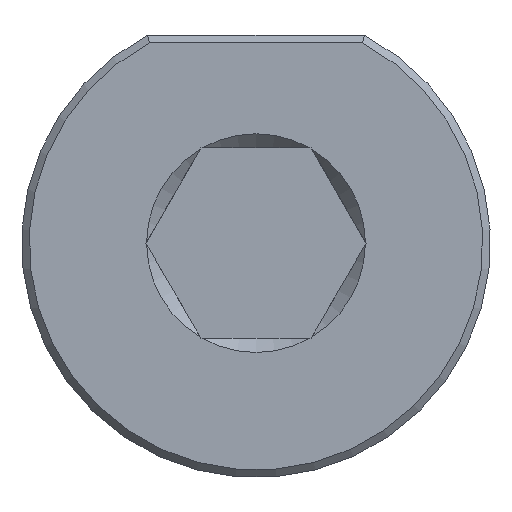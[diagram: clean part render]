
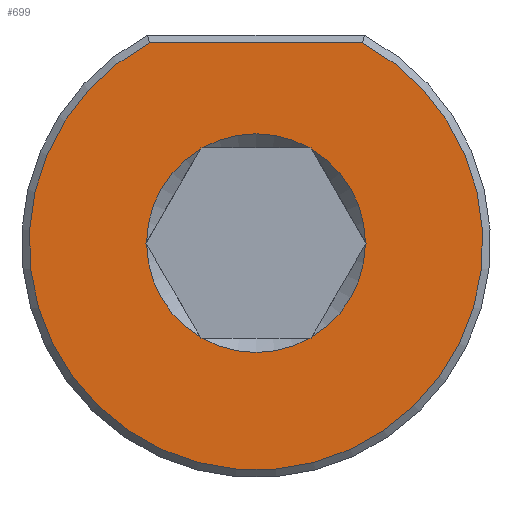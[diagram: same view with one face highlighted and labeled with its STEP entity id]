
A CAD part, front view. The second image highlights one B-rep face of the part: STEP entity #699.
In plain terms, the highlighted planar face has unit normal (0, -1, 0).
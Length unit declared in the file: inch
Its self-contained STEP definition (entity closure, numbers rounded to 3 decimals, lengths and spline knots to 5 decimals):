
#30=PLANE('',#776);
#46=FACE_BOUND('',#159,.T.);
#65=CIRCLE('',#770,0.5975);
#70=CIRCLE('',#777,0.288);
#71=CIRCLE('',#778,0.288);
#72=CIRCLE('',#779,0.288);
#73=CIRCLE('',#780,0.288);
#74=CIRCLE('',#781,0.288);
#75=CIRCLE('',#782,0.288);
#115=FACE_OUTER_BOUND('',#158,.T.);
#158=EDGE_LOOP('',(#566,#567));
#159=EDGE_LOOP('',(#568,#569,#570,#571,#572,#573,#574,#575,#576,#577,#578,
#579,#580,#581,#582,#583,#584,#585));
#196=LINE('',#1303,#241);
#198=LINE('',#1327,#243);
#199=LINE('',#1329,#244);
#200=LINE('',#1333,#245);
#201=LINE('',#1335,#246);
#202=LINE('',#1339,#247);
#203=LINE('',#1341,#248);
#204=LINE('',#1345,#249);
#205=LINE('',#1347,#250);
#206=LINE('',#1351,#251);
#207=LINE('',#1353,#252);
#208=LINE('',#1357,#253);
#209=LINE('',#1359,#254);
#241=VECTOR('',#896,0.3937);
#243=VECTOR('',#914,0.3937);
#244=VECTOR('',#915,0.3937);
#245=VECTOR('',#918,0.3937);
#246=VECTOR('',#919,0.3937);
#247=VECTOR('',#922,0.3937);
#248=VECTOR('',#923,0.3937);
#249=VECTOR('',#926,0.3937);
#250=VECTOR('',#927,0.3937);
#251=VECTOR('',#930,0.3937);
#252=VECTOR('',#931,0.3937);
#253=VECTOR('',#934,0.3937);
#254=VECTOR('',#935,0.3937);
#323=VERTEX_POINT('',#1301);
#324=VERTEX_POINT('',#1302);
#329=VERTEX_POINT('',#1325);
#330=VERTEX_POINT('',#1326);
#331=VERTEX_POINT('',#1328);
#332=VERTEX_POINT('',#1330);
#333=VERTEX_POINT('',#1332);
#334=VERTEX_POINT('',#1334);
#335=VERTEX_POINT('',#1336);
#336=VERTEX_POINT('',#1338);
#337=VERTEX_POINT('',#1340);
#338=VERTEX_POINT('',#1342);
#339=VERTEX_POINT('',#1344);
#340=VERTEX_POINT('',#1346);
#341=VERTEX_POINT('',#1348);
#342=VERTEX_POINT('',#1350);
#343=VERTEX_POINT('',#1352);
#344=VERTEX_POINT('',#1354);
#345=VERTEX_POINT('',#1356);
#346=VERTEX_POINT('',#1358);
#408=EDGE_CURVE('',#323,#324,#196,.T.);
#412=EDGE_CURVE('',#324,#323,#65,.T.);
#417=EDGE_CURVE('',#329,#330,#198,.T.);
#418=EDGE_CURVE('',#330,#331,#199,.T.);
#419=EDGE_CURVE('',#332,#331,#70,.T.);
#420=EDGE_CURVE('',#332,#333,#200,.T.);
#421=EDGE_CURVE('',#333,#334,#201,.T.);
#422=EDGE_CURVE('',#335,#334,#71,.T.);
#423=EDGE_CURVE('',#335,#336,#202,.T.);
#424=EDGE_CURVE('',#336,#337,#203,.T.);
#425=EDGE_CURVE('',#338,#337,#72,.T.);
#426=EDGE_CURVE('',#338,#339,#204,.T.);
#427=EDGE_CURVE('',#339,#340,#205,.T.);
#428=EDGE_CURVE('',#341,#340,#73,.T.);
#429=EDGE_CURVE('',#341,#342,#206,.T.);
#430=EDGE_CURVE('',#342,#343,#207,.T.);
#431=EDGE_CURVE('',#344,#343,#74,.T.);
#432=EDGE_CURVE('',#344,#345,#208,.T.);
#433=EDGE_CURVE('',#345,#346,#209,.T.);
#434=EDGE_CURVE('',#329,#346,#75,.T.);
#566=ORIENTED_EDGE('',*,*,#408,.F.);
#567=ORIENTED_EDGE('',*,*,#412,.F.);
#568=ORIENTED_EDGE('',*,*,#417,.T.);
#569=ORIENTED_EDGE('',*,*,#418,.T.);
#570=ORIENTED_EDGE('',*,*,#419,.F.);
#571=ORIENTED_EDGE('',*,*,#420,.T.);
#572=ORIENTED_EDGE('',*,*,#421,.T.);
#573=ORIENTED_EDGE('',*,*,#422,.F.);
#574=ORIENTED_EDGE('',*,*,#423,.T.);
#575=ORIENTED_EDGE('',*,*,#424,.T.);
#576=ORIENTED_EDGE('',*,*,#425,.F.);
#577=ORIENTED_EDGE('',*,*,#426,.T.);
#578=ORIENTED_EDGE('',*,*,#427,.T.);
#579=ORIENTED_EDGE('',*,*,#428,.F.);
#580=ORIENTED_EDGE('',*,*,#429,.T.);
#581=ORIENTED_EDGE('',*,*,#430,.T.);
#582=ORIENTED_EDGE('',*,*,#431,.F.);
#583=ORIENTED_EDGE('',*,*,#432,.T.);
#584=ORIENTED_EDGE('',*,*,#433,.T.);
#585=ORIENTED_EDGE('',*,*,#434,.F.);
#699=ADVANCED_FACE('',(#115,#46),#30,.T.);
#770=AXIS2_PLACEMENT_3D('',#1314,#900,#901);
#776=AXIS2_PLACEMENT_3D('',#1324,#912,#913);
#777=AXIS2_PLACEMENT_3D('',#1331,#916,#917);
#778=AXIS2_PLACEMENT_3D('',#1337,#920,#921);
#779=AXIS2_PLACEMENT_3D('',#1343,#924,#925);
#780=AXIS2_PLACEMENT_3D('',#1349,#928,#929);
#781=AXIS2_PLACEMENT_3D('',#1355,#932,#933);
#782=AXIS2_PLACEMENT_3D('',#1360,#936,#937);
#896=DIRECTION('',(1.,0.,0.));
#900=DIRECTION('center_axis',(0.,1.,0.));
#901=DIRECTION('ref_axis',(0.,0.,-1.));
#912=DIRECTION('center_axis',(0.,-1.,0.));
#913=DIRECTION('ref_axis',(0.,0.,-1.));
#914=DIRECTION('',(0.5,0.,-0.866));
#915=DIRECTION('',(-0.5,0.,-0.866));
#916=DIRECTION('center_axis',(0.,-1.,0.));
#917=DIRECTION('ref_axis',(0.,0.,1.));
#918=DIRECTION('',(-0.5,0.,-0.866));
#919=DIRECTION('',(-1.,0.,0.));
#920=DIRECTION('center_axis',(0.,-1.,0.));
#921=DIRECTION('ref_axis',(0.,0.,1.));
#922=DIRECTION('',(-1.,0.,0.));
#923=DIRECTION('',(-0.5,0.,0.866));
#924=DIRECTION('center_axis',(0.,-1.,0.));
#925=DIRECTION('ref_axis',(0.,0.,1.));
#926=DIRECTION('',(-0.5,0.,0.866));
#927=DIRECTION('',(0.5,0.,0.866));
#928=DIRECTION('center_axis',(0.,-1.,0.));
#929=DIRECTION('ref_axis',(0.,0.,1.));
#930=DIRECTION('',(0.5,0.,0.866));
#931=DIRECTION('',(1.,0.,0.));
#932=DIRECTION('center_axis',(0.,-1.,0.));
#933=DIRECTION('ref_axis',(0.,0.,1.));
#934=DIRECTION('',(1.,0.,0.));
#935=DIRECTION('',(0.5,0.,-0.866));
#936=DIRECTION('center_axis',(0.,-1.,0.));
#937=DIRECTION('ref_axis',(0.,0.,1.));
#1301=CARTESIAN_POINT('',(-0.28062,0.,0.5275));
#1302=CARTESIAN_POINT('',(0.28062,0.,0.5275));
#1303=CARTESIAN_POINT('',(0.14278,0.,0.5275));
#1314=CARTESIAN_POINT('Origin',(0.,0.,0.));
#1324=CARTESIAN_POINT('Origin',(0.,0.,-0.248));
#1325=CARTESIAN_POINT('',(0.28798,0.,0.0032));
#1326=CARTESIAN_POINT('',(0.28983,0.,0.));
#1327=CARTESIAN_POINT('',(0.23484,0.,0.09525));
#1328=CARTESIAN_POINT('',(0.28798,0.,-0.0032));
#1329=CARTESIAN_POINT('',(0.19991,0.,-0.15575));
#1330=CARTESIAN_POINT('',(0.14676,0.,-0.2478));
#1331=CARTESIAN_POINT('Origin',(0.,0.,0.));
#1332=CARTESIAN_POINT('',(0.14491,0.,-0.251));
#1333=CARTESIAN_POINT('',(0.19991,0.,-0.15575));
#1334=CARTESIAN_POINT('',(0.14122,0.,-0.251));
#1335=CARTESIAN_POINT('',(0.07246,0.,-0.251));
#1336=CARTESIAN_POINT('',(-0.14122,0.,-0.251));
#1337=CARTESIAN_POINT('Origin',(0.,0.,0.));
#1338=CARTESIAN_POINT('',(-0.14491,0.,-0.251));
#1339=CARTESIAN_POINT('',(0.07246,0.,-0.251));
#1340=CARTESIAN_POINT('',(-0.14676,0.,-0.2478));
#1341=CARTESIAN_POINT('',(-0.12745,0.,-0.28125));
#1342=CARTESIAN_POINT('',(-0.28798,0.,-0.0032));
#1343=CARTESIAN_POINT('Origin',(0.,0.,0.));
#1344=CARTESIAN_POINT('',(-0.28983,0.,0.));
#1345=CARTESIAN_POINT('',(-0.12745,0.,-0.28125));
#1346=CARTESIAN_POINT('',(-0.28798,0.,0.0032));
#1347=CARTESIAN_POINT('',(-0.30729,0.,-0.03025));
#1348=CARTESIAN_POINT('',(-0.14676,0.,0.2478));
#1349=CARTESIAN_POINT('Origin',(0.,0.,0.));
#1350=CARTESIAN_POINT('',(-0.14491,0.,0.251));
#1351=CARTESIAN_POINT('',(-0.30729,0.,-0.03025));
#1352=CARTESIAN_POINT('',(-0.14122,0.,0.251));
#1353=CARTESIAN_POINT('',(-0.07246,0.,0.251));
#1354=CARTESIAN_POINT('',(0.14122,0.,0.251));
#1355=CARTESIAN_POINT('Origin',(0.,0.,0.));
#1356=CARTESIAN_POINT('',(0.14491,0.,0.251));
#1357=CARTESIAN_POINT('',(-0.07246,0.,0.251));
#1358=CARTESIAN_POINT('',(0.14676,0.,0.2478));
#1359=CARTESIAN_POINT('',(0.23484,0.,0.09525));
#1360=CARTESIAN_POINT('Origin',(0.,0.,0.));
